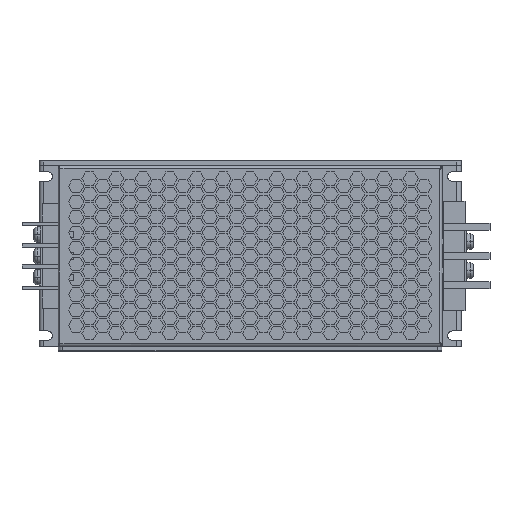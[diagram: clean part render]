
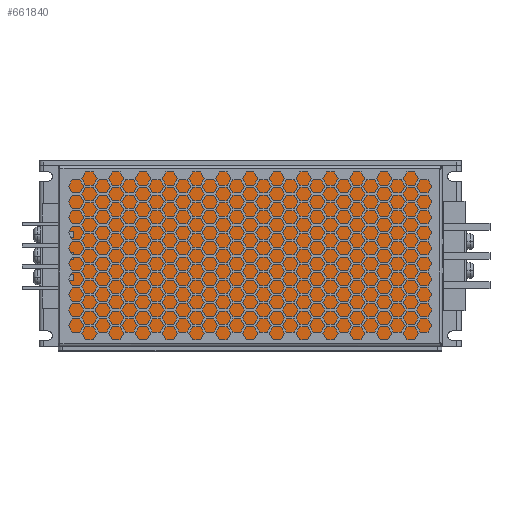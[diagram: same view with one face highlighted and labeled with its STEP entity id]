
A CAD part, top view. The second image highlights one B-rep face of the part: STEP entity #661840.
In plain terms, the highlighted planar face has unit normal (0, 0, 1).
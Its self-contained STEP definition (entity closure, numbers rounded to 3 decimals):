
#636150=CARTESIAN_POINT('',(5.457,53.979,
0.));
#636160=VERTEX_POINT('',#636150);
#636190=CARTESIAN_POINT('',(177.707,53.979,0.))
;
#636200=DIRECTION('',(1.,0.,0.));
#636210=VECTOR('',#636200,1.);
#636220=LINE('',#636190,#636210);
#636230=CARTESIAN_POINT('',(178.957,53.979,0.))
;
#636240=VERTEX_POINT('',#636230);
#636250=EDGE_CURVE('',#636160,#636240,#636220,.T.);
#639480=CARTESIAN_POINT('',(185.657,53.979,0.))
;
#639490=VERTEX_POINT('',#639480);
#640090=CARTESIAN_POINT('',(16.642,53.979,
0.));
#640100=DIRECTION('',(1.,0.,0.));
#640110=VECTOR('',#640100,1.);
#640120=LINE('',#640090,#640110);
#640130=EDGE_CURVE('',#636240,#639490,#640120,.T.);
#640840=CARTESIAN_POINT('',(185.657,128.779,0.)
);
#640850=VERTEX_POINT('',#640840);
#640880=CARTESIAN_POINT('',(17.642,128.779,
0.));
#640890=DIRECTION('',(-1.,0.,0.));
#640900=VECTOR('',#640890,1.);
#640910=LINE('',#640880,#640900);
#640920=CARTESIAN_POINT('',(183.707,128.779,0.)
);
#640930=VERTEX_POINT('',#640920);
#640940=EDGE_CURVE('',#640850,#640930,#640910,.T.);
#641510=CARTESIAN_POINT('',(0.707,56.779,
0.));
#641520=VERTEX_POINT('',#641510);
#641550=CARTESIAN_POINT('',(15.642,56.779,
0.));
#641560=DIRECTION('',(-1.,0.,0.));
#641570=VECTOR('',#641560,1.);
#641580=LINE('',#641550,#641570);
#641590=CARTESIAN_POINT('',(-1.243,56.779,
0.));
#641600=VERTEX_POINT('',#641590);
#641610=EDGE_CURVE('',#641520,#641600,#641580,.T.);
#642080=CARTESIAN_POINT('',(185.657,56.779,0.))
;
#642090=VERTEX_POINT('',#642080);
#642120=CARTESIAN_POINT('',(17.642,56.779,
0.));
#642130=DIRECTION('',(-1.,0.,0.));
#642140=VECTOR('',#642130,1.);
#642150=LINE('',#642120,#642140);
#642160=CARTESIAN_POINT('',(183.707,56.779,0.))
;
#642170=VERTEX_POINT('',#642160);
#642180=EDGE_CURVE('',#642090,#642170,#642150,.T.);
#649390=CARTESIAN_POINT('',(185.657,135.779,0.)
);
#649400=VERTEX_POINT('',#649390);
#649430=CARTESIAN_POINT('',(16.642,135.779,
0.));
#649440=DIRECTION('',(-1.,0.,0.));
#649450=VECTOR('',#649440,1.);
#649460=LINE('',#649430,#649450);
#649470=CARTESIAN_POINT('',(-1.243,135.779,
0.));
#649480=VERTEX_POINT('',#649470);
#649490=EDGE_CURVE('',#649400,#649480,#649460,.T.);
#658670=CARTESIAN_POINT('',(185.657,132.979,0.)
);
#658680=VERTEX_POINT('',#658670);
#658710=CARTESIAN_POINT('',(185.657,93.574,
0.));
#658720=DIRECTION('',(0.,1.,0.));
#658730=VECTOR('',#658720,1.);
#658740=LINE('',#658710,#658730);
#658750=EDGE_CURVE('',#658680,#649400,#658740,.T.);
#659450=CARTESIAN_POINT('',(183.707,130.879,0.)
);
#659460=DIRECTION('',(0.,0.,1.));
#659470=DIRECTION('',(1.,0.,0.));
#659480=AXIS2_PLACEMENT_3D('',#659450,#659460,#659470);
#659490=CIRCLE('',#659480,2.1);
#659500=CARTESIAN_POINT('',(183.707,132.979,0.)
);
#659510=VERTEX_POINT('',#659500);
#659520=EDGE_CURVE('',#659510,#640930,#659490,.T.);
#659730=CARTESIAN_POINT('',(185.657,60.979,0.))
;
#659740=VERTEX_POINT('',#659730);
#659750=EDGE_CURVE('',#659740,#640850,#658740,.T.);
#660360=EDGE_CURVE('',#639490,#642090,#658740,.T.);
#660420=CARTESIAN_POINT('',(183.707,58.879,0.))
;
#660430=DIRECTION('',(0.,0.,1.));
#660440=DIRECTION('',(1.,0.,0.));
#660450=AXIS2_PLACEMENT_3D('',#660420,#660430,#660440);
#660460=CIRCLE('',#660450,2.1);
#660470=CARTESIAN_POINT('',(183.707,60.979,0.))
;
#660480=VERTEX_POINT('',#660470);
#660490=EDGE_CURVE('',#660480,#642170,#660460,.T.);
#660810=CARTESIAN_POINT('',(17.642,60.979,
0.));
#660820=DIRECTION('',(1.,0.,0.));
#660830=VECTOR('',#660820,1.);
#660840=LINE('',#660810,#660830);
#660850=EDGE_CURVE('',#660480,#659740,#660840,.T.);
#660970=CARTESIAN_POINT('',(-2.293,135.779,
0.));
#660980=DIRECTION('',(-0.,-0.,-1.));
#660990=DIRECTION('',(0.,-1.,0.));
#661000=AXIS2_PLACEMENT_3D('',#660970,#660980,#660990);
#661010=PLANE('',#661000);
#661020=ORIENTED_EDGE('',*,*,#636250,.T.);
#661030=CARTESIAN_POINT('',(177.707,53.979,0.))
;
#661040=DIRECTION('',(1.,0.,0.));
#661050=VECTOR('',#661040,1.);
#661060=LINE('',#661030,#661050);
#661070=CARTESIAN_POINT('',(-1.243,53.979,
0.));
#661080=VERTEX_POINT('',#661070);
#661090=EDGE_CURVE('',#661080,#636160,#661060,.T.);
#661100=ORIENTED_EDGE('',*,*,#661090,.T.);
#661110=CARTESIAN_POINT('',(-1.243,93.574,
0.));
#661120=DIRECTION('',(0.,-1.,0.));
#661130=VECTOR('',#661120,1.);
#661140=LINE('',#661110,#661130);
#661150=EDGE_CURVE('',#641600,#661080,#661140,.T.);
#661160=ORIENTED_EDGE('',*,*,#661150,.T.);
#661170=ORIENTED_EDGE('',*,*,#641610,.T.);
#661180=CARTESIAN_POINT('',(0.707,58.879,
0.));
#661190=DIRECTION('',(0.,0.,1.));
#661200=DIRECTION('',(1.,0.,0.));
#661210=AXIS2_PLACEMENT_3D('',#661180,#661190,#661200);
#661220=CIRCLE('',#661210,2.1);
#661230=CARTESIAN_POINT('',(0.707,60.979,
0.));
#661240=VERTEX_POINT('',#661230);
#661250=EDGE_CURVE('',#641520,#661240,#661220,.T.);
#661260=ORIENTED_EDGE('',*,*,#661250,.F.);
#661270=CARTESIAN_POINT('',(15.642,60.979,
0.));
#661280=DIRECTION('',(1.,0.,0.));
#661290=VECTOR('',#661280,1.);
#661300=LINE('',#661270,#661290);
#661310=CARTESIAN_POINT('',(-1.243,60.979,
0.));
#661320=VERTEX_POINT('',#661310);
#661330=EDGE_CURVE('',#661320,#661240,#661300,.T.);
#661340=ORIENTED_EDGE('',*,*,#661330,.T.);
#661350=CARTESIAN_POINT('',(-1.243,128.779,
0.));
#661360=VERTEX_POINT('',#661350);
#661370=EDGE_CURVE('',#661360,#661320,#661140,.T.);
#661380=ORIENTED_EDGE('',*,*,#661370,.T.);
#661390=CARTESIAN_POINT('',(15.642,128.779,
0.));
#661400=DIRECTION('',(-1.,0.,0.));
#661410=VECTOR('',#661400,1.);
#661420=LINE('',#661390,#661410);
#661430=CARTESIAN_POINT('',(0.707,128.779,
0.));
#661440=VERTEX_POINT('',#661430);
#661450=EDGE_CURVE('',#661440,#661360,#661420,.T.);
#661460=ORIENTED_EDGE('',*,*,#661450,.T.);
#661470=CARTESIAN_POINT('',(0.707,130.879,
0.));
#661480=DIRECTION('',(0.,0.,1.));
#661490=DIRECTION('',(1.,0.,0.));
#661500=AXIS2_PLACEMENT_3D('',#661470,#661480,#661490);
#661510=CIRCLE('',#661500,2.1);
#661520=CARTESIAN_POINT('',(0.707,132.979,
0.));
#661530=VERTEX_POINT('',#661520);
#661540=EDGE_CURVE('',#661440,#661530,#661510,.T.);
#661550=ORIENTED_EDGE('',*,*,#661540,.F.);
#661560=CARTESIAN_POINT('',(15.642,132.979,
0.));
#661570=DIRECTION('',(1.,0.,0.));
#661580=VECTOR('',#661570,1.);
#661590=LINE('',#661560,#661580);
#661600=CARTESIAN_POINT('',(-1.243,132.979,
0.));
#661610=VERTEX_POINT('',#661600);
#661620=EDGE_CURVE('',#661610,#661530,#661590,.T.);
#661630=ORIENTED_EDGE('',*,*,#661620,.T.);
#661640=EDGE_CURVE('',#649480,#661610,#661140,.T.);
#661650=ORIENTED_EDGE('',*,*,#661640,.T.);
#661660=ORIENTED_EDGE('',*,*,#649490,.T.);
#661670=ORIENTED_EDGE('',*,*,#658750,.T.);
#661680=CARTESIAN_POINT('',(17.642,132.979,
0.));
#661690=DIRECTION('',(1.,0.,0.));
#661700=VECTOR('',#661690,1.);
#661710=LINE('',#661680,#661700);
#661720=EDGE_CURVE('',#659510,#658680,#661710,.T.);
#661730=ORIENTED_EDGE('',*,*,#661720,.T.);
#661740=ORIENTED_EDGE('',*,*,#659520,.F.);
#661750=ORIENTED_EDGE('',*,*,#640940,.T.);
#661760=ORIENTED_EDGE('',*,*,#659750,.T.);
#661770=ORIENTED_EDGE('',*,*,#660850,.T.);
#661780=ORIENTED_EDGE('',*,*,#660490,.F.);
#661790=ORIENTED_EDGE('',*,*,#642180,.T.);
#661800=ORIENTED_EDGE('',*,*,#660360,.T.);
#661810=ORIENTED_EDGE('',*,*,#640130,.T.);
#661820=EDGE_LOOP('',(#661810,#661800,#661790,#661780,#661770,#661760,
#661750,#661740,#661730,#661670,#661660,#661650,#661630,#661550,#661460,
#661380,#661340,#661260,#661170,#661160,#661100,#661020));
#661830=FACE_OUTER_BOUND('',#661820,.T.);
#661840=ADVANCED_FACE('',(#661830),#661010,.F.);
